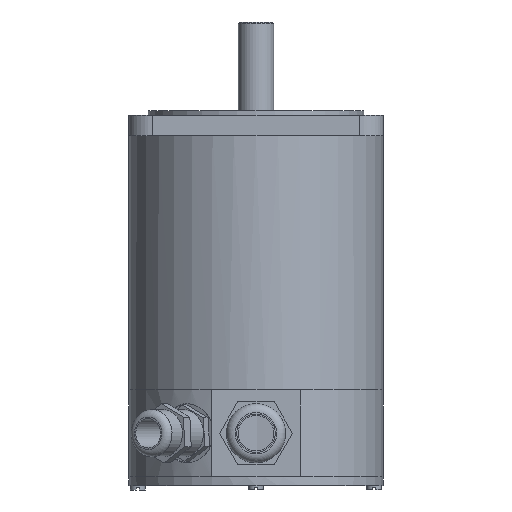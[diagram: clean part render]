
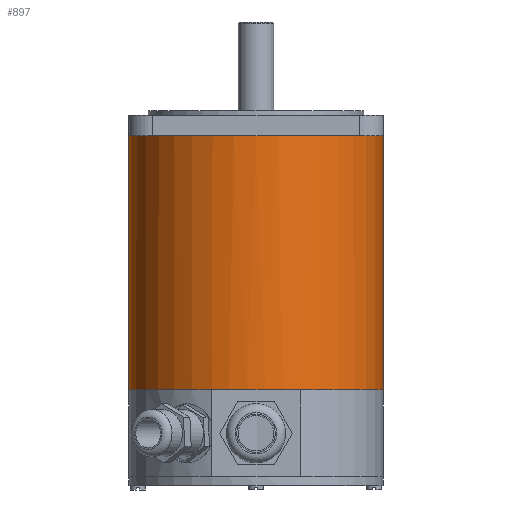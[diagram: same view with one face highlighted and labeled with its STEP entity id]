
A CAD part, front view. The second image highlights one B-rep face of the part: STEP entity #897.
In plain terms, the highlighted cylindrical face has radius 43 mm (diameter 86 mm), a full revolution.
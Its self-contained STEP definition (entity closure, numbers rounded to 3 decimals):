
#187=CARTESIAN_POINT('',(-69.773,-46.811,77.005));
#188=VERTEX_POINT('',#187);
#189=CARTESIAN_POINT('',(-26.773,-89.811,77.005));
#190=VERTEX_POINT('',#189);
#191=CARTESIAN_POINT('',(-69.773,-89.811,77.005));
#192=DIRECTION('',(0.0,0.0,-1.0));
#193=DIRECTION('',(-1.0,0.0,0.0));
#194=AXIS2_PLACEMENT_3D('',#191,#192,#193);
#195=CIRCLE('',#194,43.0);
#196=EDGE_CURVE('',#188,#190,#195,.T.);
#240=CARTESIAN_POINT('',(-112.773,-89.811,77.005));
#241=VERTEX_POINT('',#240);
#242=CARTESIAN_POINT('',(-69.773,-89.811,77.005));
#243=DIRECTION('',(0.0,0.0,-1.0));
#244=DIRECTION('',(-1.0,0.0,0.0));
#245=AXIS2_PLACEMENT_3D('',#242,#243,#244);
#246=CIRCLE('',#245,43.0);
#247=EDGE_CURVE('',#241,#188,#246,.T.);
#291=CARTESIAN_POINT('',(-69.773,-132.811,77.005));
#292=VERTEX_POINT('',#291);
#293=CARTESIAN_POINT('',(-69.773,-89.811,77.005));
#294=DIRECTION('',(0.0,0.0,-1.0));
#295=DIRECTION('',(-1.0,0.0,0.0));
#296=AXIS2_PLACEMENT_3D('',#293,#294,#295);
#297=CIRCLE('',#296,43.0);
#298=EDGE_CURVE('',#292,#241,#297,.T.);
#342=CARTESIAN_POINT('',(-69.773,-89.811,77.005));
#343=DIRECTION('',(0.0,0.0,-1.0));
#344=DIRECTION('',(-1.0,0.0,0.0));
#345=AXIS2_PLACEMENT_3D('',#342,#343,#344);
#346=CIRCLE('',#345,43.0);
#347=EDGE_CURVE('',#190,#292,#346,.T.);
#857=CARTESIAN_POINT('',(-69.773,-89.811,-8.995));
#858=DIRECTION('',(0.,0.,1.0));
#859=DIRECTION('',(-1.0,0.0,0.0));
#860=AXIS2_PLACEMENT_3D('',#857,#858,#859);
#861=CYLINDRICAL_SURFACE('',#860,43.0);
#862=ORIENTED_EDGE('',*,*,#347,.T.);
#863=ORIENTED_EDGE('',*,*,#298,.T.);
#864=ORIENTED_EDGE('',*,*,#247,.T.);
#865=ORIENTED_EDGE('',*,*,#196,.T.);
#866=EDGE_LOOP('',(#862,#863,#864,#865));
#867=FACE_OUTER_BOUND('',#866,.T.);
#868=CARTESIAN_POINT('',(-26.773,-89.811,-8.995));
#869=VERTEX_POINT('',#868);
#870=CARTESIAN_POINT('',(-54.74,-130.098,-8.995));
#871=VERTEX_POINT('',#870);
#872=CARTESIAN_POINT('',(-69.773,-89.811,-8.995));
#873=DIRECTION('',(0.,0.,-1.0));
#874=DIRECTION('',(-0.35,0.937,0.));
#875=AXIS2_PLACEMENT_3D('',#872,#873,#874);
#876=CIRCLE('',#875,43.);
#877=EDGE_CURVE('',#869,#871,#876,.T.);
#878=ORIENTED_EDGE('',*,*,#877,.F.);
#879=CARTESIAN_POINT('',(-84.806,-130.098,-8.995));
#880=VERTEX_POINT('',#879);
#881=CARTESIAN_POINT('',(-69.773,-89.811,-8.995));
#882=DIRECTION('',(0.,0.,-1.0));
#883=DIRECTION('',(-0.35,0.937,0.));
#884=AXIS2_PLACEMENT_3D('',#881,#882,#883);
#885=CIRCLE('',#884,43.);
#886=EDGE_CURVE('',#880,#869,#885,.T.);
#887=ORIENTED_EDGE('',*,*,#886,.F.);
#888=CARTESIAN_POINT('',(-69.773,-89.811,-8.995));
#889=DIRECTION('',(0.0,0.0,-1.0));
#890=DIRECTION('',(-1.0,0.0,0.0));
#891=AXIS2_PLACEMENT_3D('',#888,#889,#890);
#892=CIRCLE('',#891,43.0);
#893=EDGE_CURVE('',#871,#880,#892,.T.);
#894=ORIENTED_EDGE('',*,*,#893,.F.);
#895=EDGE_LOOP('',(#878,#887,#894));
#896=FACE_BOUND('',#895,.T.);
#897=ADVANCED_FACE('',(#867,#896),#861,.T.);
